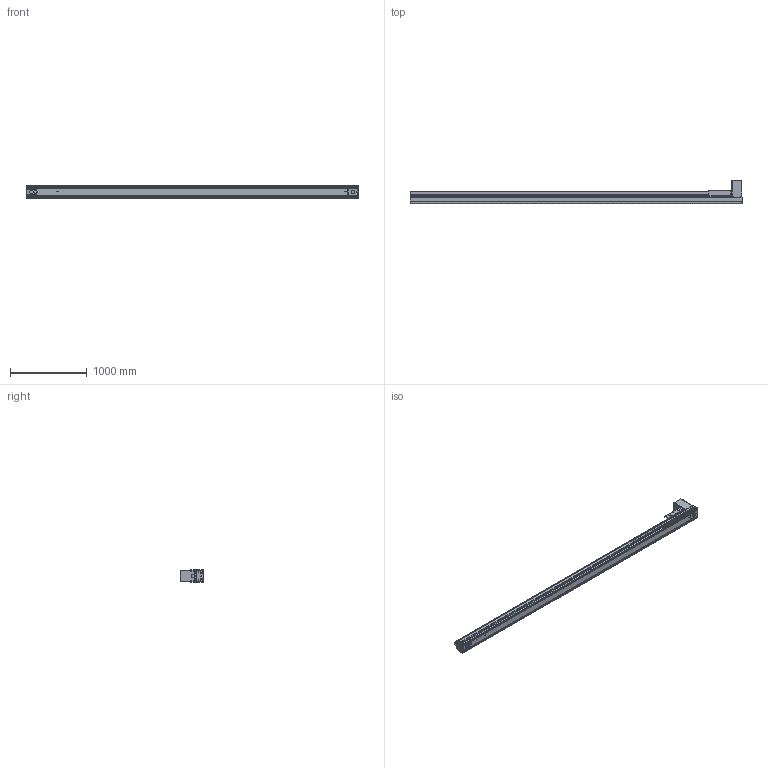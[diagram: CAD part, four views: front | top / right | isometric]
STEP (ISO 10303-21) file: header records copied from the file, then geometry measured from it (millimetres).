
FILE_DESCRIPTION((''),'2;1');
FILE_NAME('BE50G-BT-L19N-W75_IGS_PRT','2017-06-18T',(' '),(''),'PRO/ENGINEER BY PARAMETRIC TECHNOLOGY CORPORATION, 2015030','PRO/ENGINEER BY PARAMETRIC TECHNOLOGY CORPORATION, 2015030','');
FILE_SCHEMA(('CONFIG_CONTROL_DESIGN'));
Products named in the file (1): BE50G-BT-L19N-W75_IGS_PRT
Bounding box: 4320 x 309 x 160 mm (x, y, z)
Volume: 17414960.2 mm3; surface area: 8523891.9 mm2
Topology: 10 solids, 375 shells, 2341 faces, 7169 edges, 4908 vertices
Faces by surface type: cylinder 1381, plane 699, cone 218, sphere 23, torus 20
Entity records: 84450 total; most frequent: CARTESIAN_POINT 19414, DIRECTION 13650, ORIENTED_EDGE 12986, EDGE_CURVE 7095, AXIS2_PLACEMENT_3D 5224, VERTEX_POINT 4908, VECTOR 3202, LINE 3202
